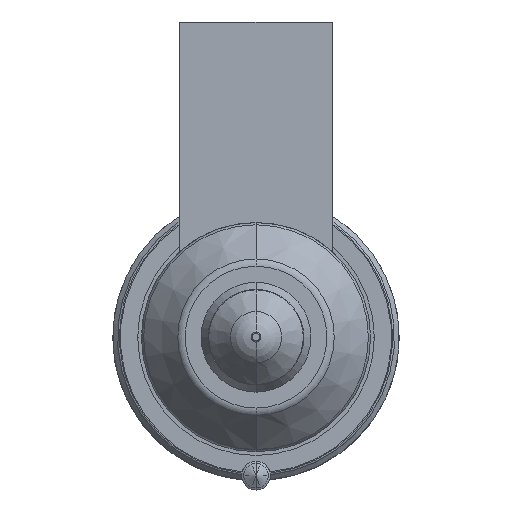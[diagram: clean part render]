
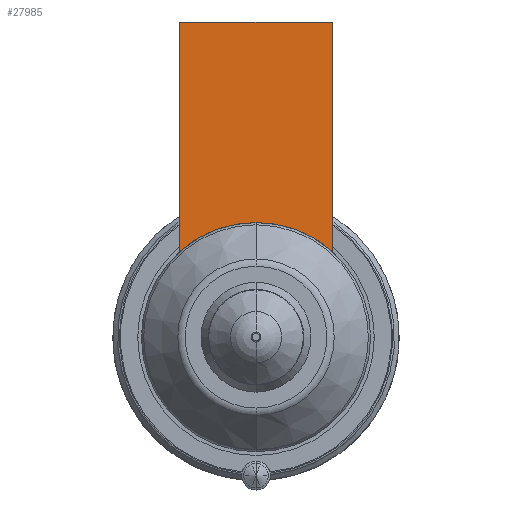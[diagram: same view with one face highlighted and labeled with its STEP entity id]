
A CAD part, front view. The second image highlights one B-rep face of the part: STEP entity #27985.
In plain terms, the highlighted planar face has unit normal (0, -1, 0).
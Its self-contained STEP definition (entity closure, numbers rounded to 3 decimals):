
#27061=DIRECTION('',(0.,0.,-1.));
#27062=VECTOR('',#27061,24.056);
#27063=CARTESIAN_POINT('',(-8.,-56.,33.));
#27064=LINE('',#27063,#27062);
#27101=DIRECTION('',(1.,0.,0.));
#27102=VECTOR('',#27101,16.);
#27103=CARTESIAN_POINT('',(-8.,-56.,33.));
#27104=LINE('',#27103,#27102);
#27108=CARTESIAN_POINT('',(0.,-56.,0.));
#27109=DIRECTION('',(0.,-1.,0.));
#27110=DIRECTION('',(0.667,0.,0.745));
#27111=AXIS2_PLACEMENT_3D('',#27108,#27109,#27110);
#27116=CARTESIAN_POINT('',(0.,-56.,0.));
#27117=DIRECTION('',(0.,-1.,0.));
#27118=DIRECTION('',(0.,0.,1.));
#27119=AXIS2_PLACEMENT_3D('',#27116,#27117,#27118);
#27152=DIRECTION('',(0.,0.,-1.));
#27153=VECTOR('',#27152,24.056);
#27154=CARTESIAN_POINT('',(8.,-56.,33.));
#27155=LINE('',#27154,#27153);
#27821=CARTESIAN_POINT('',(-8.,-56.,33.));
#27822=VERTEX_POINT('',#27821);
#27827=CARTESIAN_POINT('',(8.,-56.,33.));
#27828=VERTEX_POINT('',#27827);
#27831=CARTESIAN_POINT('',(-8.,-56.,8.944));
#27832=VERTEX_POINT('',#27831);
#27835=CARTESIAN_POINT('',(8.,-56.,8.944));
#27836=VERTEX_POINT('',#27835);
#27904=CARTESIAN_POINT('',(0.,-56.,12.));
#27905=VERTEX_POINT('',#27904);
#27970=CARTESIAN_POINT('',(-8.,-56.,33.));
#27971=DIRECTION('',(0.,-1.,0.));
#27972=DIRECTION('',(0.,0.,-1.));
#27973=AXIS2_PLACEMENT_3D('',#27970,#27971,#27972);
#27974=PLANE('',#27973);
#27975=ORIENTED_EDGE('',*,*,#27918,.F.);
#27977=ORIENTED_EDGE('',*,*,#27976,.T.);
#27979=ORIENTED_EDGE('',*,*,#27978,.T.);
#27981=ORIENTED_EDGE('',*,*,#27980,.T.);
#27982=ORIENTED_EDGE('',*,*,#27950,.T.);
#27983=EDGE_LOOP('',(#27975,#27977,#27979,#27981,#27982));
#27984=FACE_OUTER_BOUND('',#27983,.F.);
#27985=ADVANCED_FACE('',(#27984),#27974,.T.);
#27112=CIRCLE('',#27111,12.);
#27120=CIRCLE('',#27119,12.);
#27918=EDGE_CURVE('',#27822,#27832,#27064,.T.);
#27950=EDGE_CURVE('',#27905,#27832,#27120,.T.);
#27976=EDGE_CURVE('',#27822,#27828,#27104,.T.);
#27978=EDGE_CURVE('',#27828,#27836,#27155,.T.);
#27980=EDGE_CURVE('',#27836,#27905,#27112,.T.);
